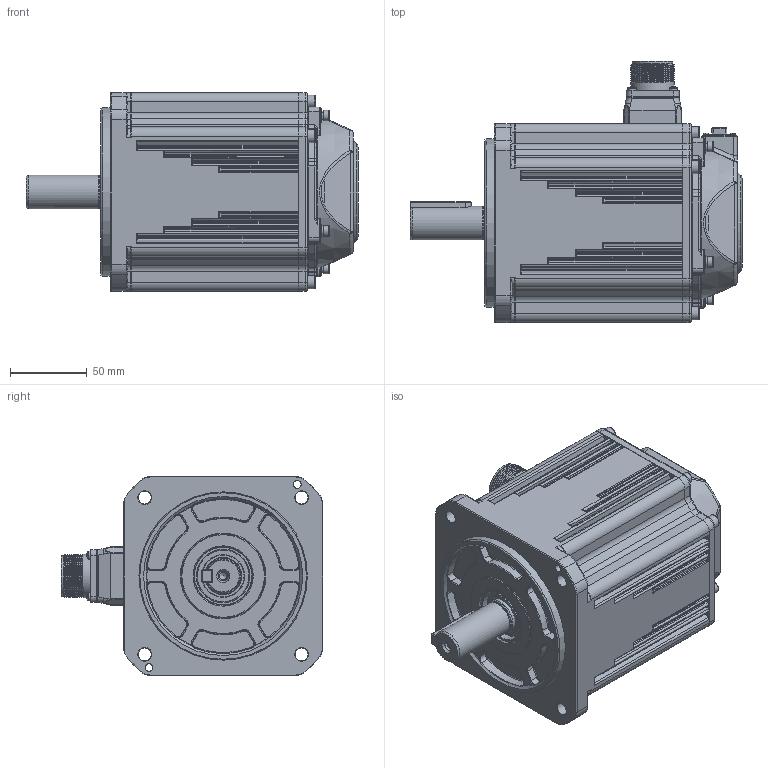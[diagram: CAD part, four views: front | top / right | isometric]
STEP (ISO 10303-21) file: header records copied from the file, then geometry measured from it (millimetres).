
FILE_DESCRIPTION (( 'STEP AP203' ), '1' );
FILE_NAME ('俋倛芞ACM1M-1318.STEP', '2023-01-10T03:55:30', ( '' ), ( '' ), 'SwSTEP 2.0', 'SolidWorks 2021', '' );
FILE_SCHEMA (( 'CONFIG_CONTROL_DESIGN' ));
Length unit declared in the file: millimetre
Products named in the file (14): 130瑤脣假蚾釱; ﾓﾍｷ筌ｻTC｣ｻ24｡ﾁ38｡ﾁ7｣ｻSOG; 萇埭脣釱蹟隊_M3℅10; 晤鎢裔蹟隊; C型平键8×7×45螺纹拆卸型; 130前端盖0.85、1.3、1.8_成品-1.8; 130后端盖 卡簧式 高30.9 ADC12 LM RoHS_加工; 130蛌粣09-XX 粣扥耳22 40Cr DC RoHS_LX晤鎢ん; 航插动力接插件 4芯 SZ RoHS; 俋倛芞ACM1M-1318; 130航插安装座密封垫 38.6×36.6×1.35 NBR HA70 RoHS; 130晤鎢ん裔1M; 綴傷裔蹟隊_M5℅20; 1M晤鎢脣釱+蹟隊
Assembly tree (22 placements, depth 2):
  俋倛芞ACM1M-1318
    130前端盖0.85、1.3、1.8_成品-1.8
    130蛌粣09-XX 粣扥耳22 40Cr DC RoHS_LX晤鎢ん
    130后端盖 卡簧式 高30.9 ADC12 LM RoHS_加工
    130晤鎢ん裔1M
    綴傷裔蹟隊_M5℅20  x4
    晤鎢裔蹟隊  x4
    130瑤脣假蚾釱
    130航插安装座密封垫 38.6×36.6×1.35 NBR HA70 RoHS
    1M晤鎢脣釱+蹟隊
    航插动力接插件 4芯 SZ RoHS
    萇埭脣釱蹟隊_M3℅10  x4
    ﾓﾍｷ筌ｻTC｣ｻ24｡ﾁ38｡ﾁ7｣ｻSOG
    C型平键8×7×45螺纹拆卸型
Bounding box: 217 x 170.7 x 130 mm (x, y, z)
Volume: 2516148.1 mm3; surface area: 231316 mm2
Topology: 35 solids, 42 shells, 3192 faces, 8255 edges, 5198 vertices
Faces by surface type: plane 1572, cylinder 849, torus 383, bspline 289, cone 88, sphere 11
Full cylindrical faces by diameter (mm): 1.5 x6, 1.6 x8, 2 x1, 2.2 x2, 2.4 x4, 2.48 x4, 2.5 x4, 2.598 x4, 2.6 x2, 2.8 x4, 3 x5, 3.08 x1, 3.2 x8, 3.3 x5, 3.5 x4, 3.7 x4, 3.9 x4, 4 x4, 4.2 x4, 4.5 x8, 5 x7, 5.5 x4, 5.6 x4, 6.4 x1, 7 x4, 8.5 x8, 9 x4, 21.7 x1, 21.9 x2, 22 x1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
Entity records: 122239 total; most frequent: CARTESIAN_POINT 51042, ORIENTED_EDGE 14764, DIRECTION 13685, EDGE_CURVE 7382, AXIS2_PLACEMENT_3D 4835, VERTEX_POINT 4808, VECTOR 4015, LINE 4015
